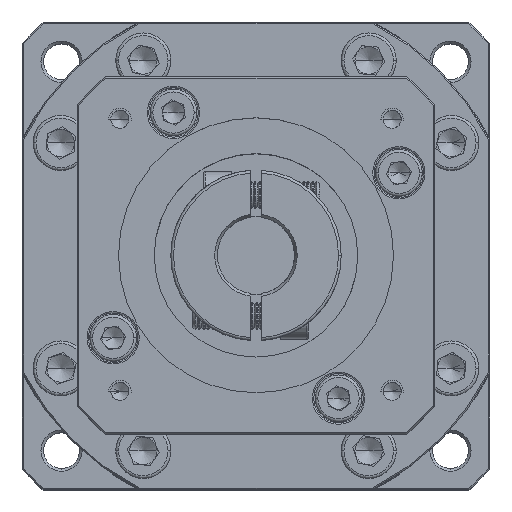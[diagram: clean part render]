
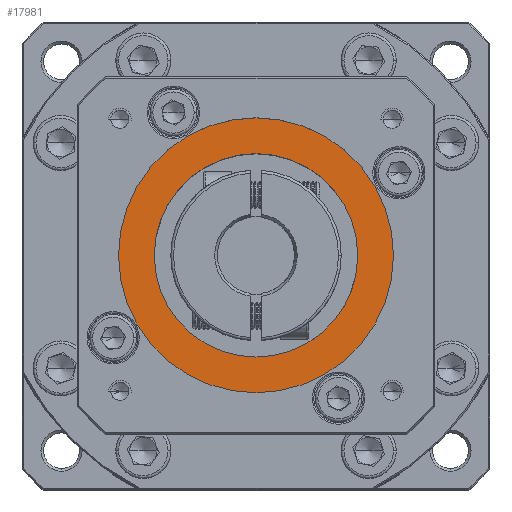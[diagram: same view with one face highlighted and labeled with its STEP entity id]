
A CAD part, top view. The second image highlights one B-rep face of the part: STEP entity #17981.
In plain terms, the highlighted planar face has unit normal (0, 0, 1).
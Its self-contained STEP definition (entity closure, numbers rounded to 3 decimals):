
#3761 = CARTESIAN_POINT ( 'NONE',  ( -74.595, 41.122, -10.431 ) ) ;
#5983 = AXIS2_PLACEMENT_3D ( 'NONE', #111772, #122484, #50048 ) ;
#8627 = DIRECTION ( 'NONE',  ( 0., 0., 1. ) ) ;
#10202 = ORIENTED_EDGE ( 'NONE', *, *, #88397, .T. ) ;
#12343 = CARTESIAN_POINT ( 'NONE',  ( -37.595, 41.122, -10.431 ) ) ;
#13593 = VERTEX_POINT ( 'NONE', #84228 ) ;
#13601 = AXIS2_PLACEMENT_3D ( 'NONE', #112487, #60177, #70905 ) ;
#13744 = DIRECTION ( 'NONE',  ( 1., 0., 0. ) ) ;
#17981 = ADVANCED_FACE ( 'NONE', ( #115733, #85265 ), #65482, .T. ) ;
#19368 = CARTESIAN_POINT ( 'NONE',  ( -56.095, 41.122, -10.431 ) ) ;
#29647 = DIRECTION ( 'NONE',  ( 1., 0., 0. ) ) ;
#33804 = EDGE_CURVE ( 'NONE', #46149, #13593, #69992, .T. ) ;
#38774 = CARTESIAN_POINT ( 'NONE',  ( -81.095, 41.122, -10.431 ) ) ;
#40015 = ORIENTED_EDGE ( 'NONE', *, *, #33804, .T. ) ;
#42868 = DIRECTION ( 'NONE',  ( 0., 0., -1. ) ) ;
#43992 = DIRECTION ( 'NONE',  ( 0., 0., 1. ) ) ;
#46149 = VERTEX_POINT ( 'NONE', #38774 ) ;
#46218 = AXIS2_PLACEMENT_3D ( 'NONE', #94991, #43992, #116019 ) ;
#47769 = VERTEX_POINT ( 'NONE', #12343 ) ;
#50048 = DIRECTION ( 'NONE',  ( 1., 0., 0. ) ) ;
#50134 = EDGE_CURVE ( 'NONE', #13593, #46149, #87812, .T. ) ;
#60177 = DIRECTION ( 'NONE',  ( 0., 0., 1. ) ) ;
#65482 = PLANE ( 'NONE',  #46218 ) ;
#65881 = ORIENTED_EDGE ( 'NONE', *, *, #74109, .T. ) ;
#69610 = VERTEX_POINT ( 'NONE', #3761 ) ;
#69992 = CIRCLE ( 'NONE', #13601, 25. ) ;
#70846 = AXIS2_PLACEMENT_3D ( 'NONE', #19368, #8627, #29647 ) ;
#70905 = DIRECTION ( 'NONE',  ( 1., 0., 0. ) ) ;
#71354 = CIRCLE ( 'NONE', #5983, 18.5 ) ;
#71618 = EDGE_LOOP ( 'NONE', ( #104001, #40015 ) ) ;
#74109 = EDGE_CURVE ( 'NONE', #69610, #47769, #75641, .T. ) ;
#75641 = CIRCLE ( 'NONE', #94679, 18.5 ) ;
#84228 = CARTESIAN_POINT ( 'NONE',  ( -31.095, 41.122, -10.431 ) ) ;
#85265 = FACE_BOUND ( 'NONE', #91171, .T. ) ;
#87812 = CIRCLE ( 'NONE', #70846, 25. ) ;
#88397 = EDGE_CURVE ( 'NONE', #47769, #69610, #71354, .T. ) ;
#91171 = EDGE_LOOP ( 'NONE', ( #10202, #65881 ) ) ;
#94679 = AXIS2_PLACEMENT_3D ( 'NONE', #124289, #42868, #13744 ) ;
#94991 = CARTESIAN_POINT ( 'NONE',  ( -56.095, 41.122, -10.431 ) ) ;
#104001 = ORIENTED_EDGE ( 'NONE', *, *, #50134, .T. ) ;
#111772 = CARTESIAN_POINT ( 'NONE',  ( -56.095, 41.122, -10.431 ) ) ;
#112487 = CARTESIAN_POINT ( 'NONE',  ( -56.095, 41.122, -10.431 ) ) ;
#115733 = FACE_OUTER_BOUND ( 'NONE', #71618, .T. ) ;
#116019 = DIRECTION ( 'NONE',  ( 1., 0., 0. ) ) ;
#122484 = DIRECTION ( 'NONE',  ( 0., 0., -1. ) ) ;
#124289 = CARTESIAN_POINT ( 'NONE',  ( -56.095, 41.122, -10.431 ) ) ;
